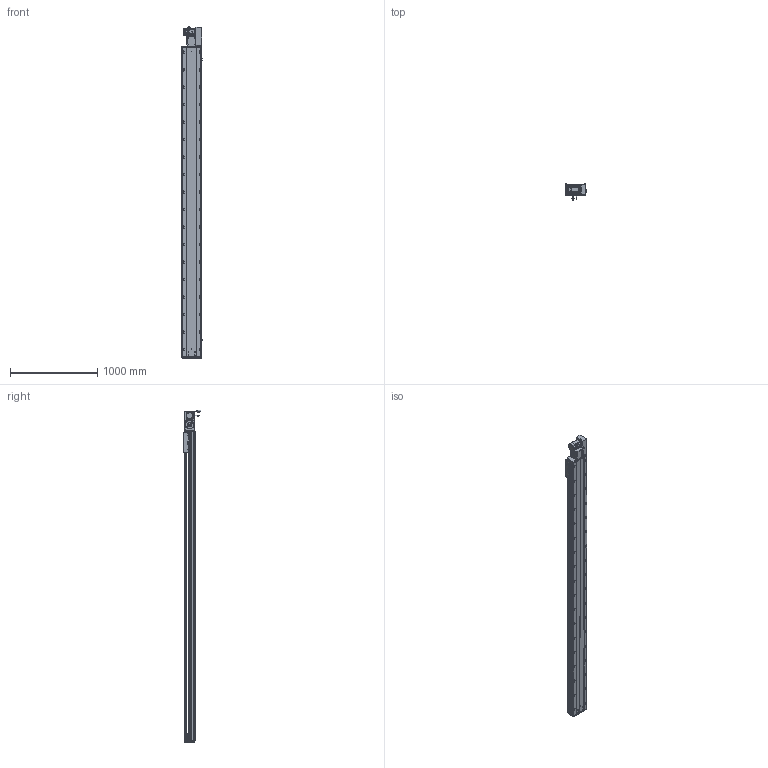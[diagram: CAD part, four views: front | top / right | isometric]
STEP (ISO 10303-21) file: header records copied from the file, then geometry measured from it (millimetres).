
FILE_DESCRIPTION (( 'STEP AP203' ), '1' );
FILE_NAME ('RY220-T-300-RK.SLDASM_3200.step', '2022-07-25T08:26:06', ( '' ), ( '' ), 'SwSTEP 2.0', 'SolidWorks 2016', '' );
FILE_SCHEMA (( 'CONFIG_CONTROL_DESIGN' ));
Length unit declared in the file: millimetre
Products named in the file (14): 110A-T-肮祭謫釱傷裔; RY220-同步轮副支撑座6304×2; 滅袉蝶18-15; 怢湛750W_ECMA-CX0807ES; RY220-T-300-RK.SLDASM_3200; RY220-T菁釱-300_3200; RY220圉猾敕々湍臏賑輸; RY220翋肮祭謫釱; 覜茼ん672; RY220-T-蛌殏萇儂假蚾啣(750W); RY220-T-湍謫欶(鍼踢); RY220-T-300-奻裔啣_3200; RY220翋肮祭謫裔啣; RY220-俋离672覜茼んえ
Assembly tree (18 placements, depth 2):
  RY220-T-300-RK.SLDASM_3200
    RY220-T菁釱-300_3200
    RY220翋肮祭謫釱
    覜茼ん672  x3
    RY220圉猾敕々湍臏賑輸
    RY220-T-300-奻裔啣_3200
    RY220-俋离672覜茼んえ
    滅袉蝶18-15  x3
    RY220翋肮祭謫裔啣  x2
    110A-T-肮祭謫釱傷裔
    怢湛750W_ECMA-CX0807ES
    RY220-T-湍謫欶(鍼踢)
    RY220-T-蛌殏萇儂假蚾啣(750W)
    RY220-同步轮副支撑座6304×2
Bounding box: 238.7 x 198.77 x 3795.24 mm (x, y, z)
Volume: 26499746.2 mm3; surface area: 8220495.6 mm2
Topology: 19 solids, 19 shells, 3066 faces, 8483 edges, 5302 vertices
Faces by surface type: cylinder 1522, plane 1069, cone 393, bspline 56, sphere 16, torus 10
Entity records: 102243 total; most frequent: CARTESIAN_POINT 28783, ORIENTED_EDGE 15162, DIRECTION 14688, EDGE_CURVE 7581, AXIS2_PLACEMENT_3D 5316, VERTEX_POINT 4926, VECTOR 4056, LINE 4056
